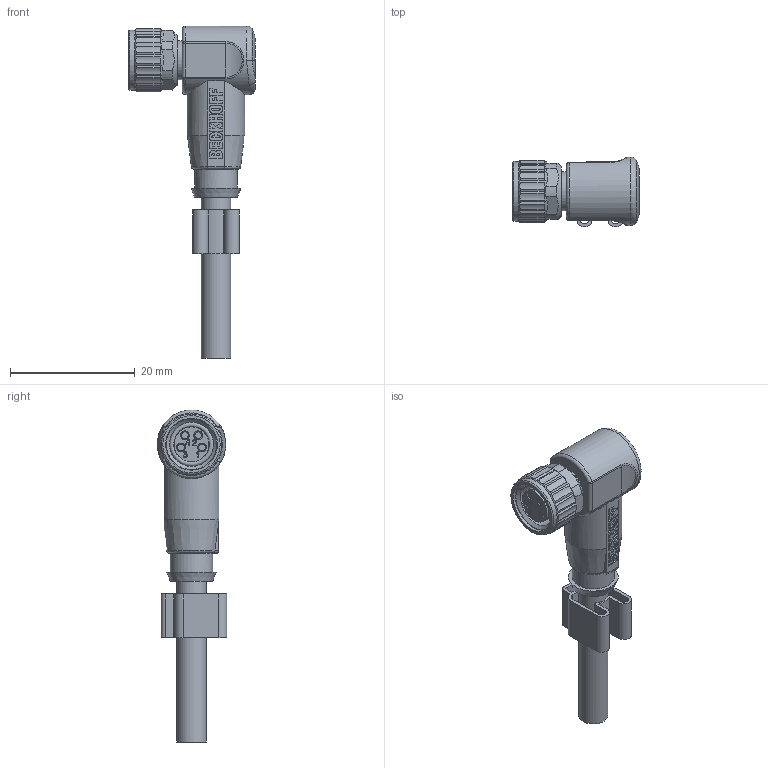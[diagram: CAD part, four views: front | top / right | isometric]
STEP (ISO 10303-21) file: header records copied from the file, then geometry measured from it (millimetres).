
FILE_DESCRIPTION((''),'2;1');
FILE_NAME('K:\Step\Beckhoff\SAL-8-RKW4.stp','2014-09-09T11:29:18',('ulrikefromm'),(''),'Autodesk Inventor 2011','Autodesk Inventor 2011','');
FILE_SCHEMA(('AUTOMOTIVE_DESIGN { 1 0 10303 214 1 1 1 1 }'));
Length unit declared in the file: millimetre
Products named in the file (1): Bauteil1
Bounding box: 20.3 x 11.15 x 53.25 mm (x, y, z)
Volume: 3065.5 mm3; surface area: 2537.5 mm2
Topology: 1 solids, 1 shells, 675 faces, 1901 edges, 1258 vertices
Faces by surface type: plane 536, cylinder 84, bspline 30, cone 14, torus 7, sphere 4
Full cylindrical faces by diameter (mm): 1.1 x4, 4.7 x1, 5.6 x1, 6.25 x1, 6.8 x1, 7.1 x1, 8.3 x1, 9.6 x1, 11 x1
Entity records: 22429 total; most frequent: CARTESIAN_POINT 4847, ORIENTED_EDGE 3728, DIRECTION 3116, EDGE_CURVE 1864, VECTOR 1506, LINE 1506, VERTEX_POINT 1244, AXIS2_PLACEMENT_3D 805
